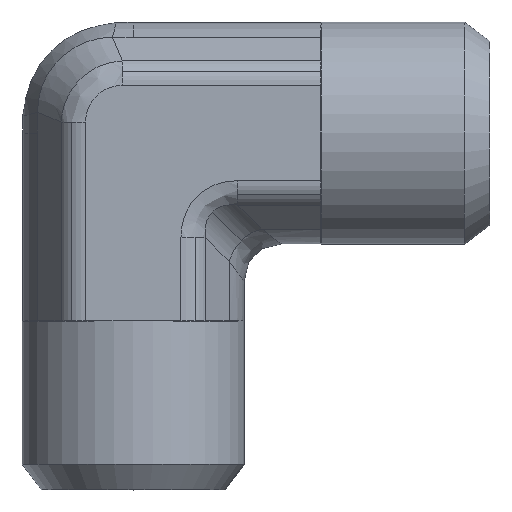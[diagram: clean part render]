
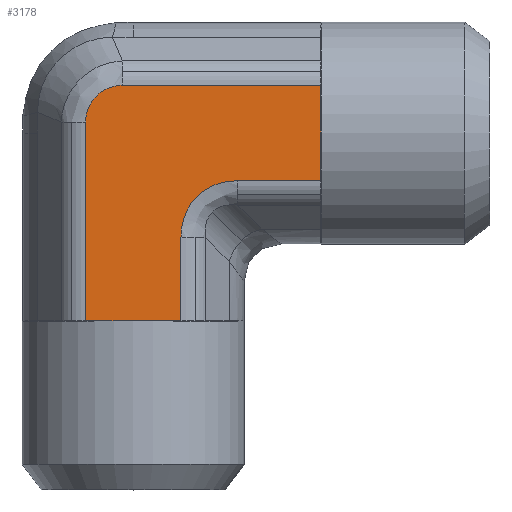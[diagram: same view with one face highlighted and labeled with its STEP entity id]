
A CAD part, top view. The second image highlights one B-rep face of the part: STEP entity #3178.
In plain terms, the highlighted planar face has unit normal (0, 0, 1) as drawn and (0, -1, 0) by its records, which use the part's own axes.
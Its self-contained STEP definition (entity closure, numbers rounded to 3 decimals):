
#361=CARTESIAN_POINT('',(1.071,-5.9,2.54));
#362=VERTEX_POINT('',#361);
#370=CARTESIAN_POINT('',(5.5,-5.9,2.54));
#371=VERTEX_POINT('',#370);
#372=CARTESIAN_POINT('',(1.071,-5.9,2.54));
#373=DIRECTION('',(1.0,0.0,0.0));
#374=VECTOR('',#373,4.429);
#375=LINE('',#372,#374);
#376=EDGE_CURVE('',#362,#371,#375,.T.);
#485=CARTESIAN_POINT('',(-7.04,-5.9,-0.585));
#486=VERTEX_POINT('',#485);
#494=CARTESIAN_POINT('',(-7.04,-5.9,10.0));
#495=VERTEX_POINT('',#494);
#496=CARTESIAN_POINT('',(-7.04,-5.9,-0.585));
#497=DIRECTION('',(0.0,0.0,1.0));
#498=VECTOR('',#497,10.585);
#499=LINE('',#496,#498);
#500=EDGE_CURVE('',#486,#495,#499,.T.);
#776=CARTESIAN_POINT('',(5.5,-5.9,0.));
#777=VERTEX_POINT('',#776);
#1992=CARTESIAN_POINT('',(-4.5,-5.9,10.0));
#1993=VERTEX_POINT('',#1992);
#2197=CARTESIAN_POINT('',(-4.5,-5.9,10.0));
#2198=DIRECTION('',(-1.0,0.0,0.0));
#2199=VECTOR('',#2198,2.54);
#2200=LINE('',#2197,#2199);
#2201=EDGE_CURVE('',#1993,#495,#2200,.T.);
#2266=CARTESIAN_POINT('',(-1.96,-5.9,10.0));
#2267=VERTEX_POINT('',#2266);
#2268=CARTESIAN_POINT('',(-1.96,-5.9,10.0));
#2269=DIRECTION('',(-1.0,0.0,0.0));
#2270=VECTOR('',#2269,2.54);
#2271=LINE('',#2268,#2270);
#2272=EDGE_CURVE('',#2267,#1993,#2271,.T.);
#2377=CARTESIAN_POINT('',(5.5,-5.9,-2.54));
#2378=VERTEX_POINT('',#2377);
#2379=CARTESIAN_POINT('',(5.5,-5.9,-2.54));
#2380=DIRECTION('',(0.0,0.0,1.0));
#2381=VECTOR('',#2380,2.54);
#2382=LINE('',#2379,#2381);
#2383=EDGE_CURVE('',#2378,#777,#2382,.T.);
#2401=CARTESIAN_POINT('',(5.5,-5.9,0.));
#2402=DIRECTION('',(0.0,0.0,1.0));
#2403=VECTOR('',#2402,2.54);
#2404=LINE('',#2401,#2403);
#2405=EDGE_CURVE('',#777,#371,#2404,.T.);
#2862=CARTESIAN_POINT('',(-5.085,-5.9,-2.54));
#2863=VERTEX_POINT('',#2862);
#2871=CARTESIAN_POINT('',(-7.04,-5.9,-0.585));
#2872=CARTESIAN_POINT('',(-7.04,-5.9,-0.712));
#2873=CARTESIAN_POINT('',(-7.027,-5.9,-0.841));
#2874=CARTESIAN_POINT('',(-6.961,-5.9,-1.168));
#2875=CARTESIAN_POINT('',(-6.889,-5.9,-1.36));
#2876=CARTESIAN_POINT('',(-6.626,-5.9,-1.825));
#2877=CARTESIAN_POINT('',(-6.394,-5.9,-2.068));
#2878=CARTESIAN_POINT('',(-5.806,-5.9,-2.436));
#2879=CARTESIAN_POINT('',(-5.446,-5.9,-2.54));
#2880=CARTESIAN_POINT('',(-5.085,-5.9,-2.54));
#2881=B_SPLINE_CURVE_WITH_KNOTS('',3,(#2871,#2872,#2873,#2874,#2875,#2876,#2877,#2878,#2879,#2880),.UNSPECIFIED.,.F.,.U.,(4,2,2,2,4),(-3.052,-2.67,-2.06,-1.083,0.0),.UNSPECIFIED.);
#2882=EDGE_CURVE('',#2863,#486,#2881,.F.);
#2909=CARTESIAN_POINT('',(5.5,-5.9,-2.54));
#2910=DIRECTION('',(-1.0,0.0,0.0));
#2911=VECTOR('',#2910,10.585);
#2912=LINE('',#2909,#2911);
#2913=EDGE_CURVE('',#2378,#2863,#2912,.T.);
#3045=CARTESIAN_POINT('',(-1.96,-5.9,5.571));
#3046=VERTEX_POINT('',#3045);
#3047=CARTESIAN_POINT('',(-1.96,-5.9,10.0));
#3048=DIRECTION('',(0.0,0.0,-1.0));
#3049=VECTOR('',#3048,4.429);
#3050=LINE('',#3047,#3049);
#3051=EDGE_CURVE('',#2267,#3046,#3050,.T.);
#3134=CARTESIAN_POINT('',(2.082,-5.9,6.582));
#3135=DIRECTION('',(0.,-1.0,0.));
#3136=DIRECTION('',(-0.707,0.,-0.707));
#3137=AXIS2_PLACEMENT_3D('',#3134,#3135,#3136);
#3138=ELLIPSE('',#3137,4.518,3.5);
#3139=EDGE_CURVE('',#3046,#362,#3138,.T.);
#3161=CARTESIAN_POINT('',(-4.5,-5.9,-3.175));
#3162=DIRECTION('',(0.0,-1.0,0.0));
#3163=DIRECTION('',(0.0,0.0,-1.0));
#3164=AXIS2_PLACEMENT_3D('',#3161,#3162,#3163);
#3165=PLANE('',#3164);
#3166=ORIENTED_EDGE('',*,*,#2913,.F.);
#3167=ORIENTED_EDGE('',*,*,#2383,.T.);
#3168=ORIENTED_EDGE('',*,*,#2405,.T.);
#3169=ORIENTED_EDGE('',*,*,#376,.F.);
#3170=ORIENTED_EDGE('',*,*,#3139,.F.);
#3171=ORIENTED_EDGE('',*,*,#3051,.F.);
#3172=ORIENTED_EDGE('',*,*,#2272,.T.);
#3173=ORIENTED_EDGE('',*,*,#2201,.T.);
#3174=ORIENTED_EDGE('',*,*,#500,.F.);
#3175=ORIENTED_EDGE('',*,*,#2882,.F.);
#3176=EDGE_LOOP('',(#3166,#3167,#3168,#3169,#3170,#3171,#3172,#3173,#3174,#3175));
#3177=FACE_OUTER_BOUND('',#3176,.T.);
#3178=ADVANCED_FACE('',(#3177),#3165,.T.);
